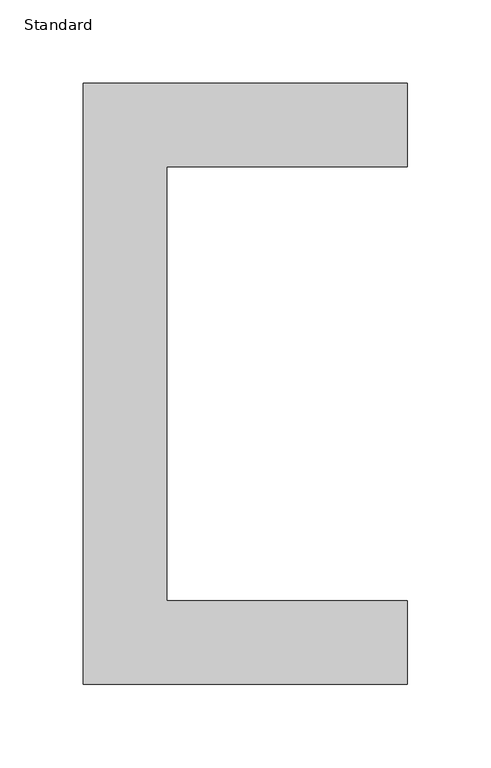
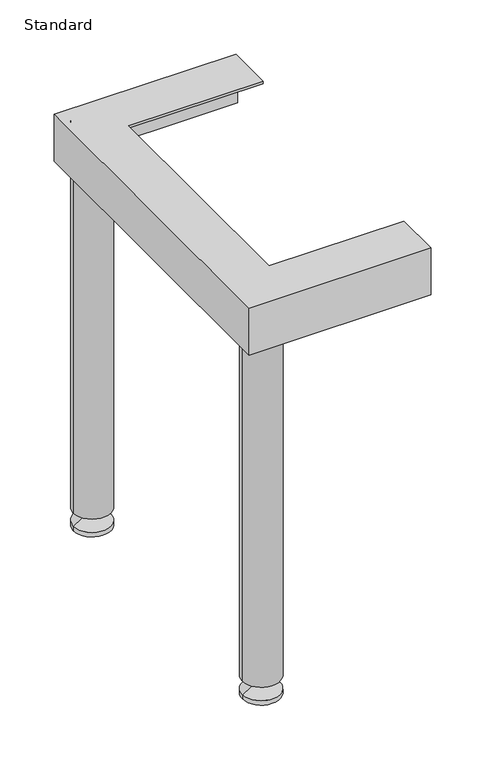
"""IFC4 building model written with IfcOpenShell, lengths in millimetres: furniture geometry, X_Bench-Foot-Duracube-Player Wall Assembly : Standard."""

from ifc_helpers import new_model, si_unit, point, frame, frame_2d, origin, place, context, project, spatial, polyline, circle_curve, trimmed, segment, composite_curve, outline, extrude, faceted_brep, source, transform, mapped, element, save
from ifc_brep_helpers import plane_surface, cylinder_surface, revolved_surface, advanced_brep


def standard_dfdfc683(model_context):
    return source(origin(), model_context, "Body", "SolidModel", [
        advanced_brep(
        [(44.9503264, -23.75, 20.0), (36.9503264, -23.75, 20.0), (40.9503264, -23.75, 20.0), (44.9503264, -23.75, 15.0), (36.9503264, -23.75, 15.0), (60.9503264, -23.75, 5.0), (20.9503264, -23.75, 5.0), (60.9503264, -23.75, 0.0), (20.9503264, -23.75, 0.0), (40.9503264, -23.75, 0.0)],
        [
            (0, 1, circle_curve(frame((40.9503264, -23.75, 20.0), z_axis=(0.0, 0.0, 1.0), x_axis=(-1.0, 0.0, 0.0)), 4.0)),
            (1, 2),
            (2, 0),
            (1, 0, circle_curve(frame((40.9503264, -23.75, 20.0), z_axis=(0.0, 0.0, 1.0), x_axis=(-1.0, 0.0, 0.0)), 4.0)),
            (3, 4, circle_curve(frame((40.9503264, -23.75, 15.0), z_axis=(0.0, 0.0, 1.0), x_axis=(-1.0, 0.0, 0.0)), 4.0)),
            (4, 1),
            (0, 3),
            (4, 3, circle_curve(frame((40.9503264, -23.75, 15.0), z_axis=(0.0, 0.0, 1.0), x_axis=(-1.0, 0.0, 0.0)), 4.0)),
            (5, 6, circle_curve(frame((40.9503264, -23.75, 5.0), z_axis=(0.0, 0.0, 1.0), x_axis=(-1.0, 0.0, 0.0)), 20.0)),
            (6, 4),
            (3, 5),
            (6, 5, circle_curve(frame((40.9503264, -23.75, 5.0), z_axis=(0.0, 0.0, 1.0), x_axis=(-1.0, 0.0, 0.0)), 20.0)),
            (7, 8, circle_curve(frame((40.9503264, -23.75, 0.0), z_axis=(0.0, 0.0, 1.0), x_axis=(-1.0, 0.0, 0.0)), 20.0)),
            (8, 6),
            (5, 7),
            (8, 7, circle_curve(frame((40.9503264, -23.75, 0.0), z_axis=(0.0, 0.0, 1.0), x_axis=(-1.0, 0.0, 0.0)), 20.0)),
            (9, 8),
            (7, 9),
        ],
        [
            plane_surface(frame((40.9503264, -23.75, 20.0), z_axis=(0.0, 0.0, 1.0), x_axis=(-1.0, 0.0, 0.0))),
            cylinder_surface(frame((40.9503264, -23.75, 0.0), z_axis=(0.0, 0.0, -1.0), x_axis=(-1.0, 0.0, 0.0)), 4.0),
            revolved_surface(polyline([(36.9503264, -23.75, 15.0), (20.9503264, -23.75, 5.0)]), (40.9503264, -23.75, 0.0), (0.0, 0.0, -1.0)),
            cylinder_surface(frame((40.9503264, -23.75, 0.0), z_axis=(0.0, 0.0, -1.0), x_axis=(-1.0, 0.0, 0.0)), 20.0),
            plane_surface(frame((40.9503264, -23.75, 0.0), z_axis=(0.0, 0.0, -1.0), x_axis=(-1.0, 0.0, 0.0))),
        ],
        [
            (0, [[1, 2, 3]]),
            (0, [[4, -3, -2]]),
            (1, [[5, 6, -1, 7]]),
            (1, [[8, -7, -4, -6]]),
            (2, [[9, 10, -5, 11]]),
            (2, [[12, -11, -8, -10]]),
            (3, [[13, 14, -9, 15]]),
            (3, [[16, -15, -12, -14]]),
            (4, [[17, -13, 18]]),
            (4, [[-18, -16, -17]]),
        ],
    ),
        advanced_brep(
        [(44.9503264, -336.25, 20.0), (36.9503264, -336.25, 20.0), (40.9503264, -336.25, 20.0), (44.9503264, -336.25, 15.0), (36.9503264, -336.25, 15.0), (60.9503264, -336.25, 5.0), (20.9503264, -336.25, 5.0), (60.9503264, -336.25, 0.0), (20.9503264, -336.25, 0.0), (40.9503264, -336.25, 0.0)],
        [
            (0, 1, circle_curve(frame((40.9503264, -336.25, 20.0), z_axis=(0.0, 0.0, 1.0), x_axis=(-1.0, 0.0, 0.0)), 4.0)),
            (1, 2),
            (2, 0),
            (1, 0, circle_curve(frame((40.9503264, -336.25, 20.0), z_axis=(0.0, 0.0, 1.0), x_axis=(-1.0, 0.0, 0.0)), 4.0)),
            (3, 4, circle_curve(frame((40.9503264, -336.25, 15.0), z_axis=(0.0, 0.0, 1.0), x_axis=(-1.0, 0.0, 0.0)), 4.0)),
            (4, 1),
            (0, 3),
            (4, 3, circle_curve(frame((40.9503264, -336.25, 15.0), z_axis=(0.0, 0.0, 1.0), x_axis=(-1.0, 0.0, 0.0)), 4.0)),
            (5, 6, circle_curve(frame((40.9503264, -336.25, 5.0), z_axis=(0.0, 0.0, 1.0), x_axis=(-1.0, 0.0, 0.0)), 20.0)),
            (6, 4),
            (3, 5),
            (6, 5, circle_curve(frame((40.9503264, -336.25, 5.0), z_axis=(0.0, 0.0, 1.0), x_axis=(-1.0, 0.0, 0.0)), 20.0)),
            (7, 8, circle_curve(frame((40.9503264, -336.25, 0.0), z_axis=(0.0, 0.0, 1.0), x_axis=(-1.0, 0.0, 0.0)), 20.0)),
            (8, 6),
            (5, 7),
            (8, 7, circle_curve(frame((40.9503264, -336.25, 0.0), z_axis=(0.0, 0.0, 1.0), x_axis=(-1.0, 0.0, 0.0)), 20.0)),
            (9, 8),
            (7, 9),
        ],
        [
            plane_surface(frame((40.9503264, -336.25, 20.0), z_axis=(0.0, 0.0, 1.0), x_axis=(-1.0, 0.0, 0.0))),
            cylinder_surface(frame((40.9503264, -336.25, 0.0), z_axis=(0.0, 0.0, -1.0), x_axis=(-1.0, 0.0, 0.0)), 4.0),
            revolved_surface(polyline([(36.9503264, -336.25, 15.0), (20.9503264, -336.25, 5.0)]), (40.9503264, -336.25, 0.0), (0.0, 0.0, -1.0)),
            cylinder_surface(frame((40.9503264, -336.25, 0.0), z_axis=(0.0, 0.0, -1.0), x_axis=(-1.0, 0.0, 0.0)), 20.0),
            plane_surface(frame((40.9503264, -336.25, 0.0), z_axis=(0.0, 0.0, -1.0), x_axis=(-1.0, 0.0, 0.0))),
        ],
        [
            (0, [[1, 2, 3]]),
            (0, [[4, -3, -2]]),
            (1, [[5, 6, -1, 7]]),
            (1, [[8, -7, -4, -6]]),
            (2, [[9, 10, -5, 11]]),
            (2, [[12, -11, -8, -10]]),
            (3, [[13, 14, -9, 15]]),
            (3, [[16, -15, -12, -14]]),
            (4, [[17, -13, 18]]),
            (4, [[-18, -16, -17]]),
        ],
    ),
        extrude(outline(composite_curve([segment(trimmed(circle_curve(frame_2d((40.9503264, -23.75)), 20.0), [point((20.9503264, -23.75))], [point((60.9503264, -23.75))], False, "CARTESIAN"), True, "CONTINUOUS"), segment(trimmed(circle_curve(frame_2d((40.9503264, -23.75)), 20.0), [point((60.9503264, -23.75))], [point((20.9503264, -23.75))], False, "CARTESIAN"), True, "CONTINUOUS")], self_intersect=False)), frame((0.0, 0.0, 20.0), z_axis=(0.0, 0.0, 1.0), x_axis=(1.0, 0.0, 0.0)), (0.0, 0.0, 1.0), 434.0),
        extrude(outline(composite_curve([segment(trimmed(circle_curve(frame_2d((40.9503264, -336.25)), 20.0), [point((20.9503264, -336.25))], [point((60.9503264, -336.25))], False, "CARTESIAN"), True, "CONTINUOUS"), segment(trimmed(circle_curve(frame_2d((40.9503264, -336.25)), 20.0), [point((60.9503264, -336.25))], [point((20.9503264, -336.25))], False, "CARTESIAN"), True, "CONTINUOUS")], self_intersect=False)), frame((0.0, 0.0, 20.0), z_axis=(0.0, 0.0, 1.0), x_axis=(1.0, 0.0, 0.0)), (0.0, 0.0, 1.0), 434.0),
        faceted_brep([(208.2003264, -360.0, 404.0), (208.2003264, -357.0, 404.0), (208.2003264, -357.0, 454.0), (208.2003264, -310.0, 454.0), (208.2003264, -310.0, 457.0), (208.2003264, -360.0, 457.0), (14.2003264, -360.0, 404.0), (14.2003264, 0.0, 404.0), (208.2003264, 0.0, 404.0), (208.2003264, -3.0, 404.0), (17.2003264, -3.0, 404.0), (17.2003264, -357.0, 404.0), (17.2003264, -357.0, 454.0), (17.2003264, -3.0, 454.0), (208.2003264, -3.0, 454.0), (208.2003264, -50.0, 454.0), (64.2003264, -50.0, 454.0), (64.2003264, -310.0, 454.0), (64.2003264, -310.0, 457.0), (64.2003264, -50.0, 457.0), (208.2003264, -50.0, 457.0), (208.2003264, 0.0, 457.0), (14.2003264, 0.0, 457.0), (14.2003264, -360.0, 457.0)], [[[0, 1, 2, 3, 4, 5]], [[1, 0, 6, 7, 8, 9, 10, 11]], [[2, 1, 11, 12]], [[3, 2, 12, 13, 14, 15, 16, 17]], [[4, 3, 17, 18]], [[5, 4, 18, 19, 20, 21, 22, 23]], [[0, 5, 23, 6]], [[6, 23, 22, 7]], [[7, 22, 21, 8]], [[8, 21, 20, 15, 14, 9]], [[13, 10, 9, 14]], [[12, 11, 10, 13]], [[19, 16, 15, 20]], [[18, 17, 16, 19]]]),
    ])


if __name__ == "__main__":
    model = new_model("IFC4")
    model_context = context("Model", 3, world=origin())
    ifc_project = project(units=[si_unit("LENGTHUNIT", "METRE", prefix="MILLI")], contexts=[model_context])
    site = spatial("IfcSite", under=ifc_project)
    building = spatial("IfcBuilding", under=site)
    placement = place(None, origin())
    standard_shape = standard_dfdfc683(model_context)
    element("IfcFurniture", 1, ObjectType="X_Bench-Foot-Duracube-Player Wall Assembly : Standard", at=placement, inside=building, context=model_context, shape_type="MappedRepresentation", body=[
        mapped(standard_shape, transform((0.0, 0.0, 0.0), x_axis=(1.0, 0.0, 0.0), y_axis=(0.0, 1.0, 0.0), z_axis=(0.0, 0.0, 1.0))),
    ])
    save(model, "model.ifc")
